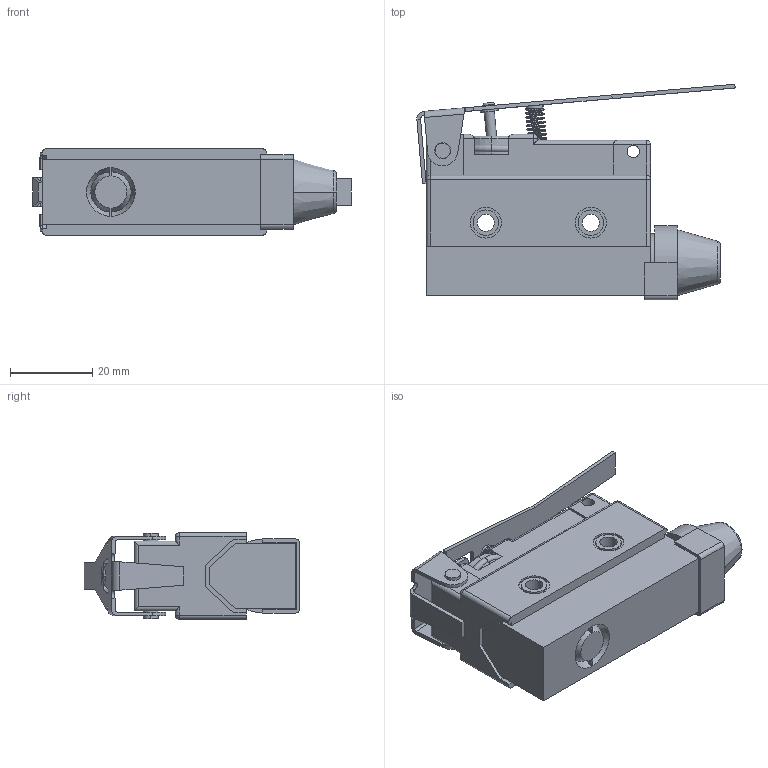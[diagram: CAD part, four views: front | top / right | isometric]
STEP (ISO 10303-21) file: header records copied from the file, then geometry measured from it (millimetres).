
FILE_DESCRIPTION (( 'STEP AP203' ), '1' );
FILE_NAME ('FM7120.STEP', '2018-03-23T13:21:41', ( '' ), ( '' ), 'SwSTEP 2.0', 'SolidWorks 2012', '' );
FILE_SCHEMA (( 'CONFIG_CONTROL_DESIGN' ));
Length unit declared in the file: millimetre
Products named in the file (1): FM7120
Bounding box: 77.32 x 52.35 x 21 mm (x, y, z)
Volume: 41144.3 mm3; surface area: 13055.4 mm2
Topology: 2 solids, 2 shells, 286 faces, 707 edges, 441 vertices
Faces by surface type: plane 129, cylinder 109, torus 26, cone 8, sphere 8, bspline 6
Entity records: 15873 total; most frequent: CARTESIAN_POINT 8951, DIRECTION 1476, ORIENTED_EDGE 1394, EDGE_CURVE 697, AXIS2_PLACEMENT_3D 542, VERTEX_POINT 441, VECTOR 392, LINE 392
